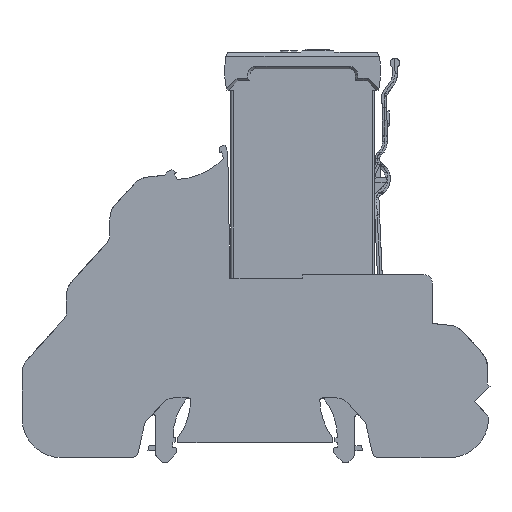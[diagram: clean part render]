
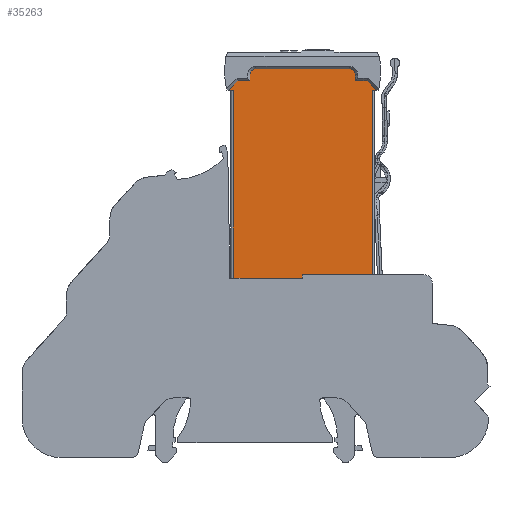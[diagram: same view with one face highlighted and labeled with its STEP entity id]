
A CAD part, left-side view. The second image highlights one B-rep face of the part: STEP entity #35263.
In plain terms, the highlighted planar face has unit normal (-1, 0, 0).
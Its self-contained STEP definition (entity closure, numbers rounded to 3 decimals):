
#60 = CARTESIAN_POINT ( 'NONE',  ( 0.7, 48.885, 81.065 ) ) ;
#245 = DIRECTION ( 'NONE',  ( -1., 0., 0. ) ) ;
#470 = VERTEX_POINT ( 'NONE', #35031 ) ;
#540 = EDGE_CURVE ( 'NONE', #28617, #470, #17720, .T. ) ;
#704 = DIRECTION ( 'NONE',  ( 0., 0., 1. ) ) ;
#1100 = FACE_OUTER_BOUND ( 'NONE', #32517, .T. ) ;
#1185 = AXIS2_PLACEMENT_3D ( 'NONE', #7067, #25991, #9582 ) ;
#1926 = CARTESIAN_POINT ( 'NONE',  ( 0.7, 41.035, 79.815 ) ) ;
#2005 = ORIENTED_EDGE ( 'NONE', *, *, #8065, .T. ) ;
#2013 = VECTOR ( 'NONE', #17446, 1000. ) ;
#2361 = DIRECTION ( 'NONE',  ( 0., 1., 0. ) ) ;
#2937 = LINE ( 'NONE', #16788, #25303 ) ;
#3091 = CARTESIAN_POINT ( 'NONE',  ( 0.7, 24.635, 84.915 ) ) ;
#3138 = DIRECTION ( 'NONE',  ( 0., 0.017, -1. ) ) ;
#3266 = EDGE_CURVE ( 'NONE', #21461, #5351, #16698, .T. ) ;
#3572 = EDGE_CURVE ( 'NONE', #21461, #35385, #20239, .T. ) ;
#4010 = PLANE ( 'NONE',  #1185 ) ;
#4213 = VECTOR ( 'NONE', #3138, 1000. ) ;
#4482 = EDGE_CURVE ( 'NONE', #35101, #35398, #32759, .T. ) ;
#4619 = LINE ( 'NONE', #1926, #8481 ) ;
#4628 = ORIENTED_EDGE ( 'NONE', *, *, #19849, .T. ) ;
#4659 = ORIENTED_EDGE ( 'NONE', *, *, #28205, .T. ) ;
#5012 = CARTESIAN_POINT ( 'NONE',  ( 0.7, 12.035, 39.313 ) ) ;
#5038 = CARTESIAN_POINT ( 'NONE',  ( 0.7, 53.635, 77.815 ) ) ;
#5342 = VECTOR ( 'NONE', #13510, 1000. ) ;
#5351 = VERTEX_POINT ( 'NONE', #34074 ) ;
#5480 = CARTESIAN_POINT ( 'NONE',  ( 0.7, 24.635, 39.313 ) ) ;
#5777 = LINE ( 'NONE', #3091, #21903 ) ;
#5934 = EDGE_CURVE ( 'NONE', #17757, #28617, #8824, .T. ) ;
#7031 = VECTOR ( 'NONE', #27695, 1000. ) ;
#7067 = CARTESIAN_POINT ( 'NONE',  ( 0.7, 41.035, 1.313 ) ) ;
#7192 = CARTESIAN_POINT ( 'NONE',  ( 0.7, 39.185, 39.313 ) ) ;
#7210 = CARTESIAN_POINT ( 'NONE',  ( 0.7, 50.135, 79.815 ) ) ;
#7402 = ORIENTED_EDGE ( 'NONE', *, *, #3266, .F. ) ;
#7649 = ORIENTED_EDGE ( 'NONE', *, *, #25166, .T. ) ;
#7952 = ORIENTED_EDGE ( 'NONE', *, *, #15632, .F. ) ;
#8065 = EDGE_CURVE ( 'NONE', #30057, #12658, #4619, .T. ) ;
#8481 = VECTOR ( 'NONE', #10202, 1000. ) ;
#8824 = LINE ( 'NONE', #19744, #2013 ) ;
#9205 = ORIENTED_EDGE ( 'NONE', *, *, #4482, .T. ) ;
#9446 = VERTEX_POINT ( 'NONE', #30450 ) ;
#9582 = DIRECTION ( 'NONE',  ( 0., 0., 1. ) ) ;
#10071 = DIRECTION ( 'NONE',  ( 0., 0.707, -0.707 ) ) ;
#10101 = CARTESIAN_POINT ( 'NONE',  ( 0.7, 28.135, 81.065 ) ) ;
#10202 = DIRECTION ( 'NONE',  ( 0., 1., 0. ) ) ;
#10636 = LINE ( 'NONE', #32232, #33379 ) ;
#10723 = CARTESIAN_POINT ( 'NONE',  ( 0.7, 50.135, 81.065 ) ) ;
#11797 = VERTEX_POINT ( 'NONE', #30552 ) ;
#12285 = DIRECTION ( 'NONE',  ( 0., 1., 0. ) ) ;
#12658 = VERTEX_POINT ( 'NONE', #31633 ) ;
#12922 = ORIENTED_EDGE ( 'NONE', *, *, #29135, .F. ) ;
#13054 = DIRECTION ( 'NONE',  ( -1., 0., 0. ) ) ;
#13070 = ORIENTED_EDGE ( 'NONE', *, *, #31068, .F. ) ;
#13220 = CARTESIAN_POINT ( 'NONE',  ( 0.7, 29.385, 81.065 ) ) ;
#13427 = VECTOR ( 'NONE', #35640, 1000. ) ;
#13510 = DIRECTION ( 'NONE',  ( 0., 0., -1. ) ) ;
#13564 = LINE ( 'NONE', #30522, #4213 ) ;
#14193 = AXIS2_PLACEMENT_3D ( 'NONE', #60, #245, #17014 ) ;
#14743 = VERTEX_POINT ( 'NONE', #5480 ) ;
#15632 = EDGE_CURVE ( 'NONE', #14743, #21441, #35308, .T. ) ;
#15751 = CARTESIAN_POINT ( 'NONE',  ( 0.7, 29.385, 82.315 ) ) ;
#15811 = DIRECTION ( 'NONE',  ( 0., 1., 0. ) ) ;
#16083 = EDGE_CURVE ( 'NONE', #11797, #35385, #28674, .T. ) ;
#16231 = ORIENTED_EDGE ( 'NONE', *, *, #34796, .T. ) ;
#16698 = LINE ( 'NONE', #33833, #7031 ) ;
#16788 = CARTESIAN_POINT ( 'NONE',  ( 0.7, 28.135, 1.313 ) ) ;
#17014 = DIRECTION ( 'NONE',  ( 0., 0., 1. ) ) ;
#17262 = CARTESIAN_POINT ( 'NONE',  ( 0.7, 53.635, 38.563 ) ) ;
#17446 = DIRECTION ( 'NONE',  ( 0., 0.707, 0.707 ) ) ;
#17551 = VECTOR ( 'NONE', #2361, 1000. ) ;
#17720 = LINE ( 'NONE', #17920, #28022 ) ;
#17757 = VERTEX_POINT ( 'NONE', #31868 ) ;
#17920 = CARTESIAN_POINT ( 'NONE',  ( 0.7, 41.035, 79.815 ) ) ;
#18958 = VECTOR ( 'NONE', #12285, 1000. ) ;
#19744 = CARTESIAN_POINT ( 'NONE',  ( 0.7, -5.917, 48.264 ) ) ;
#19849 = EDGE_CURVE ( 'NONE', #470, #22382, #2937, .T. ) ;
#20239 = LINE ( 'NONE', #31297, #5342 ) ;
#20758 = LINE ( 'NONE', #20939, #26518 ) ;
#20875 = ORIENTED_EDGE ( 'NONE', *, *, #34351, .T. ) ;
#20939 = CARTESIAN_POINT ( 'NONE',  ( 0.7, 50.135, 1.313 ) ) ;
#21441 = VERTEX_POINT ( 'NONE', #7192 ) ;
#21461 = VERTEX_POINT ( 'NONE', #5038 ) ;
#21736 = CARTESIAN_POINT ( 'NONE',  ( 0.7, 54.995, 77.815 ) ) ;
#21903 = VECTOR ( 'NONE', #704, 1000. ) ;
#22382 = VERTEX_POINT ( 'NONE', #10101 ) ;
#22948 = CIRCLE ( 'NONE', #33938, 1.25 ) ;
#23339 = DIRECTION ( 'NONE',  ( 0., 1., 0. ) ) ;
#24946 = ORIENTED_EDGE ( 'NONE', *, *, #16083, .F. ) ;
#25166 = EDGE_CURVE ( 'NONE', #29574, #30057, #20758, .T. ) ;
#25170 = CARTESIAN_POINT ( 'NONE',  ( 0.7, 41.035, 82.315 ) ) ;
#25303 = VECTOR ( 'NONE', #35566, 1000. ) ;
#25683 = ORIENTED_EDGE ( 'NONE', *, *, #3572, .T. ) ;
#25971 = CARTESIAN_POINT ( 'NONE',  ( 0.7, 24.135, 38.563 ) ) ;
#25991 = DIRECTION ( 'NONE',  ( -1., 0., 0. ) ) ;
#26145 = ORIENTED_EDGE ( 'NONE', *, *, #5934, .T. ) ;
#26330 = CIRCLE ( 'NONE', #14193, 1.25 ) ;
#26398 = DIRECTION ( 'NONE',  ( 0., 0., -1. ) ) ;
#26518 = VECTOR ( 'NONE', #26398, 1000. ) ;
#27130 = VECTOR ( 'NONE', #15811, 1000. ) ;
#27496 = ORIENTED_EDGE ( 'NONE', *, *, #32554, .T. ) ;
#27545 = CARTESIAN_POINT ( 'NONE',  ( 0.7, 25.635, 79.815 ) ) ;
#27695 = DIRECTION ( 'NONE',  ( 0., 1., 0. ) ) ;
#28022 = VECTOR ( 'NONE', #23339, 1000. ) ;
#28205 = EDGE_CURVE ( 'NONE', #14743, #9446, #5777, .T. ) ;
#28617 = VERTEX_POINT ( 'NONE', #27545 ) ;
#28674 = LINE ( 'NONE', #25971, #18958 ) ;
#29135 = EDGE_CURVE ( 'NONE', #21441, #11797, #13564, .T. ) ;
#29574 = VERTEX_POINT ( 'NONE', #10723 ) ;
#29734 = LINE ( 'NONE', #21736, #17551 ) ;
#29958 = ORIENTED_EDGE ( 'NONE', *, *, #540, .T. ) ;
#30057 = VERTEX_POINT ( 'NONE', #7210 ) ;
#30450 = CARTESIAN_POINT ( 'NONE',  ( 0.7, 24.635, 77.815 ) ) ;
#30470 = CARTESIAN_POINT ( 'NONE',  ( 0.7, 48.885, 82.315 ) ) ;
#30522 = CARTESIAN_POINT ( 'NONE',  ( 0.7, 39.198, 38.563 ) ) ;
#30552 = CARTESIAN_POINT ( 'NONE',  ( 0.7, 39.198, 38.563 ) ) ;
#31068 = EDGE_CURVE ( 'NONE', #17757, #9446, #29734, .T. ) ;
#31297 = CARTESIAN_POINT ( 'NONE',  ( 0.7, 53.635, 38.563 ) ) ;
#31633 = CARTESIAN_POINT ( 'NONE',  ( 0.7, 52.635, 79.815 ) ) ;
#31868 = CARTESIAN_POINT ( 'NONE',  ( 0.7, 23.635, 77.815 ) ) ;
#32232 = CARTESIAN_POINT ( 'NONE',  ( 0.7, 86.086, 46.364 ) ) ;
#32517 = EDGE_LOOP ( 'NONE', ( #7402, #25683, #24946, #12922, #7952, #4659, #13070, #26145, #29958, #4628, #20875, #9205, #27496, #7649, #2005, #16231 ) ) ;
#32542 = DIRECTION ( 'NONE',  ( 0., 0., 1. ) ) ;
#32554 = EDGE_CURVE ( 'NONE', #35398, #29574, #26330, .T. ) ;
#32759 = LINE ( 'NONE', #25170, #13427 ) ;
#33379 = VECTOR ( 'NONE', #10071, 1000. ) ;
#33833 = CARTESIAN_POINT ( 'NONE',  ( 0.7, 54.995, 77.815 ) ) ;
#33938 = AXIS2_PLACEMENT_3D ( 'NONE', #13220, #13054, #32542 ) ;
#34074 = CARTESIAN_POINT ( 'NONE',  ( 0.7, 54.635, 77.815 ) ) ;
#34351 = EDGE_CURVE ( 'NONE', #22382, #35101, #22948, .T. ) ;
#34796 = EDGE_CURVE ( 'NONE', #12658, #5351, #10636, .T. ) ;
#35031 = CARTESIAN_POINT ( 'NONE',  ( 0.7, 28.135, 79.815 ) ) ;
#35101 = VERTEX_POINT ( 'NONE', #15751 ) ;
#35263 = ADVANCED_FACE ( 'NONE', ( #1100 ), #4010, .T. ) ;
#35308 = LINE ( 'NONE', #5012, #27130 ) ;
#35385 = VERTEX_POINT ( 'NONE', #17262 ) ;
#35398 = VERTEX_POINT ( 'NONE', #30470 ) ;
#35566 = DIRECTION ( 'NONE',  ( 0., 0., 1. ) ) ;
#35640 = DIRECTION ( 'NONE',  ( 0., 1., 0. ) ) ;
